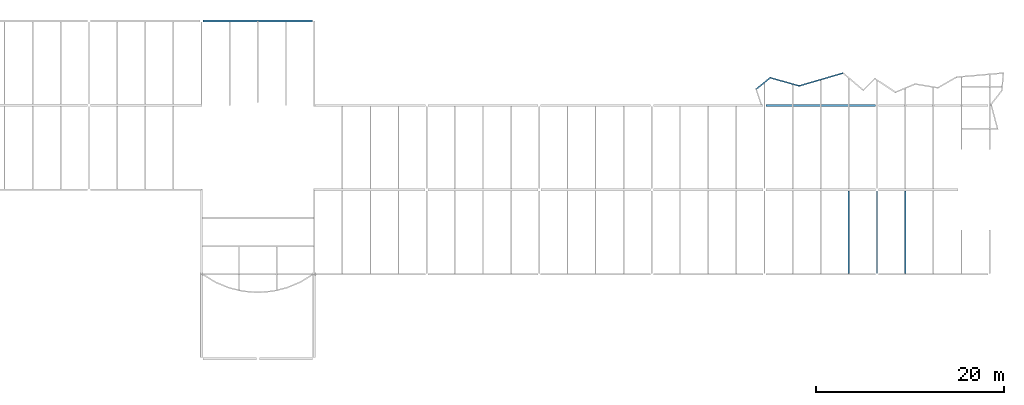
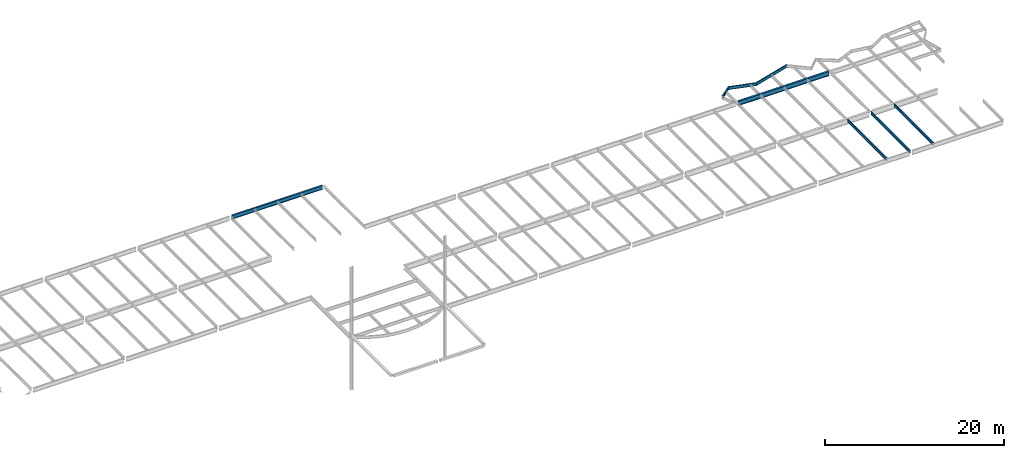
# One storey, part 17 of 21: 8 beams.
"""IFC2X3 building model written with IfcOpenShell, lengths in millimetres."""

from ifc_helpers import new_model, si_unit, origin, place, context, project, spatial, faceted_brep, material, element, save


model = new_model("IFC2X3")

# Units and contexts
context_of_model = context(None, 3, precision=1e-05, world=origin())
ifc_project = project(units=[si_unit("LENGTHUNIT", "METRE", prefix="MILLI")], contexts=[context_of_model])

# Building, storey
building = spatial("IfcBuilding", under=ifc_project, Name="Building", CompositionType="ELEMENT")
storey = spatial("IfcBuildingStorey", under=building, Name="FL6-FRM", CompositionType="ELEMENT")

# Beams
ifc_material_1 = material(Name="A992")
beam_1_placement = place(None, origin())
element("IfcBeam", 1, at=beam_1_placement, inside=storey, material=ifc_material_1, Name="B757", context=context_of_model, shape_type="Brep", body=[
    faceted_brep([(11847.0, 36104.5, 21845.0), (11847.0, 35895.5, 21845.0), (153.0, 35895.5, 21845.0), (153.0, 36104.5, 21845.0), (11847.0, 35895.5, 21858.3), (153.0, 35895.5, 21858.3), (11847.0, 35982.6, 21858.3), (153.0, 35982.6, 21858.3), (11847.0, 35985.8, 21858.7), (153.0, 35985.8, 21858.7), (11847.0, 35988.9, 21860.0), (153.0, 35988.9, 21860.0), (11847.0, 35991.5, 21862.0), (153.0, 35991.5, 21862.0), (11847.0, 35993.5, 21864.7), (153.0, 35993.5, 21864.7), (11847.0, 35994.8, 21867.7), (153.0, 35994.8, 21867.7), (11847.0, 35995.3, 21871.0), (153.0, 35995.3, 21871.0), (11847.0, 35995.3, 22347.0), (153.0, 35995.3, 22347.0), (11847.0, 35994.8, 22350.3), (153.0, 35994.8, 22350.3), (11847.0, 35993.5, 22353.3), (153.0, 35993.5, 22353.3), (11847.0, 35991.5, 22356.0), (153.0, 35991.5, 22356.0), (11847.0, 35988.9, 22358.0), (153.0, 35988.9, 22358.0), (11847.0, 35985.8, 22359.3), (153.0, 35985.8, 22359.3), (11847.0, 35982.6, 22359.7), (153.0, 35982.6, 22359.7), (11847.0, 35895.5, 22359.7), (153.0, 35895.5, 22359.7), (11847.0, 35895.5, 22373.0), (153.0, 35895.5, 22373.0), (11847.0, 36104.5, 22373.0), (153.0, 36104.5, 22373.0), (11847.0, 36104.5, 22359.7), (153.0, 36104.5, 22359.7), (11847.0, 36017.4, 22359.7), (153.0, 36017.4, 22359.7), (11847.0, 36014.2, 22359.3), (153.0, 36014.2, 22359.3), (11847.0, 36011.1, 22358.0), (153.0, 36011.1, 22358.0), (11847.0, 36008.5, 22356.0), (153.0, 36008.5, 22356.0), (11847.0, 36006.5, 22353.3), (153.0, 36006.5, 22353.3), (11847.0, 36005.2, 22350.3), (153.0, 36005.2, 22350.3), (11847.0, 36004.8, 22347.0), (153.0, 36004.8, 22347.0), (11847.0, 36004.8, 21871.0), (153.0, 36004.8, 21871.0), (11847.0, 36005.2, 21867.7), (153.0, 36005.2, 21867.7), (11847.0, 36006.5, 21864.7), (153.0, 36006.5, 21864.7), (11847.0, 36008.5, 21862.0), (153.0, 36008.5, 21862.0), (11847.0, 36011.1, 21860.0), (153.0, 36011.1, 21860.0), (11847.0, 36014.2, 21858.7), (153.0, 36014.2, 21858.7), (11847.0, 36017.4, 21858.3), (153.0, 36017.4, 21858.3), (11847.0, 36104.5, 21858.3), (153.0, 36104.5, 21858.3)], [[[0, 1, 2, 3]], [[1, 4, 5, 2]], [[4, 6, 7, 5]], [[6, 8, 9, 7]], [[8, 10, 11, 9]], [[10, 12, 13, 11]], [[12, 14, 15, 13]], [[14, 16, 17, 15]], [[16, 18, 19, 17]], [[18, 20, 21, 19]], [[20, 22, 23, 21]], [[22, 24, 25, 23]], [[24, 26, 27, 25]], [[26, 28, 29, 27]], [[28, 30, 31, 29]], [[30, 32, 33, 31]], [[32, 34, 35, 33]], [[34, 36, 37, 35]], [[36, 38, 39, 37]], [[38, 40, 41, 39]], [[40, 42, 43, 41]], [[42, 44, 45, 43]], [[44, 46, 47, 45]], [[46, 48, 49, 47]], [[48, 50, 51, 49]], [[50, 52, 53, 51]], [[52, 54, 55, 53]], [[54, 56, 57, 55]], [[56, 58, 59, 57]], [[58, 60, 61, 59]], [[60, 62, 63, 61]], [[62, 64, 65, 63]], [[64, 66, 67, 65]], [[66, 68, 69, 67]], [[68, 70, 71, 69]], [[70, 0, 3, 71]], [[0, 70, 68, 66, 64, 62, 60, 58, 56, 54, 52, 50, 48, 46, 44, 42, 40, 38, 36, 34, 32, 30, 28, 26, 24, 22, 20, 18, 16, 14, 12, 10, 8, 6, 4, 1]], [[3, 2, 5, 7, 9, 11, 13, 15, 17, 19, 21, 23, 25, 27, 29, 31, 33, 35, 37, 39, 41, 43, 45, 47, 49, 51, 53, 55, 57, 59, 61, 63, 65, 67, 69, 71]]]),
])
ifc_material_2 = material(Name="A992")
beam_2_placement = place(None, origin())
element("IfcBeam", 2, at=beam_2_placement, inside=storey, material=ifc_material_2, Name="B892", context=context_of_model, shape_type="Brep", body=[
    faceted_brep([(69070.0, 9089.5, 21970.0), (68930.0, 9089.5, 21970.0), (68930.0, 17867.5, 21970.0), (69070.0, 17867.5, 21970.0), (68930.0, 9089.5, 21981.2), (68930.0, 17867.5, 21981.2), (68986.3, 9089.5, 21981.2), (68986.3, 17867.5, 21981.2), (68988.9, 9089.5, 21981.5), (68988.9, 17867.5, 21981.5), (68991.4, 9089.5, 21982.6), (68991.4, 17867.5, 21982.6), (68993.5, 9089.5, 21984.2), (68993.5, 17867.5, 21984.2), (68995.1, 9089.5, 21986.3), (68995.1, 17867.5, 21986.3), (68996.2, 9089.5, 21988.8), (68996.2, 17867.5, 21988.8), (68996.5, 9089.5, 21991.4), (68996.5, 17867.5, 21991.4), (68996.5, 9089.5, 22351.6), (68996.5, 17867.5, 22351.6), (68996.2, 9089.5, 22354.2), (68996.2, 17867.5, 22354.2), (68995.1, 9089.5, 22356.7), (68995.1, 17867.5, 22356.7), (68993.5, 9089.5, 22358.8), (68993.5, 17867.5, 22358.8), (68991.4, 9089.5, 22360.4), (68991.4, 17867.5, 22360.4), (68988.9, 9089.5, 22361.5), (68988.9, 17867.5, 22361.5), (68986.3, 9089.5, 22361.8), (68986.3, 17867.5, 22361.8), (68930.0, 9089.5, 22361.8), (68930.0, 17867.5, 22361.8), (68930.0, 9089.5, 22373.0), (68930.0, 17867.5, 22373.0), (69070.0, 9089.5, 22373.0), (69070.0, 17867.5, 22373.0), (69070.0, 9089.5, 22361.8), (69070.0, 17867.5, 22361.8), (69013.7, 9089.5, 22361.8), (69013.7, 17867.5, 22361.8), (69011.1, 9089.5, 22361.5), (69011.1, 17867.5, 22361.5), (69008.6, 9089.5, 22360.4), (69008.6, 17867.5, 22360.4), (69006.5, 9089.5, 22358.8), (69006.5, 17867.5, 22358.8), (69004.9, 9089.5, 22356.7), (69004.9, 17867.5, 22356.7), (69003.8, 9089.5, 22354.2), (69003.8, 17867.5, 22354.2), (69003.5, 9089.5, 22351.6), (69003.5, 17867.5, 22351.6), (69003.5, 9089.5, 21991.4), (69003.5, 17867.5, 21991.4), (69003.8, 9089.5, 21988.8), (69003.8, 17867.5, 21988.8), (69004.9, 9089.5, 21986.3), (69004.9, 17867.5, 21986.3), (69006.5, 9089.5, 21984.2), (69006.5, 17867.5, 21984.2), (69008.6, 9089.5, 21982.6), (69008.6, 17867.5, 21982.6), (69011.1, 9089.5, 21981.5), (69011.1, 17867.5, 21981.5), (69013.7, 9089.5, 21981.2), (69013.7, 17867.5, 21981.2), (69070.0, 9089.5, 21981.2), (69070.0, 17867.5, 21981.2)], [[[0, 1, 2, 3]], [[1, 4, 5, 2]], [[4, 6, 7, 5]], [[6, 8, 9, 7]], [[8, 10, 11, 9]], [[10, 12, 13, 11]], [[12, 14, 15, 13]], [[14, 16, 17, 15]], [[16, 18, 19, 17]], [[18, 20, 21, 19]], [[20, 22, 23, 21]], [[22, 24, 25, 23]], [[24, 26, 27, 25]], [[26, 28, 29, 27]], [[28, 30, 31, 29]], [[30, 32, 33, 31]], [[32, 34, 35, 33]], [[34, 36, 37, 35]], [[36, 38, 39, 37]], [[38, 40, 41, 39]], [[40, 42, 43, 41]], [[42, 44, 45, 43]], [[44, 46, 47, 45]], [[46, 48, 49, 47]], [[48, 50, 51, 49]], [[50, 52, 53, 51]], [[52, 54, 55, 53]], [[54, 56, 57, 55]], [[56, 58, 59, 57]], [[58, 60, 61, 59]], [[60, 62, 63, 61]], [[62, 64, 65, 63]], [[64, 66, 67, 65]], [[66, 68, 69, 67]], [[68, 70, 71, 69]], [[70, 0, 3, 71]], [[0, 70, 68, 66, 64, 62, 60, 58, 56, 54, 52, 50, 48, 46, 44, 42, 40, 38, 36, 34, 32, 30, 28, 26, 24, 22, 20, 18, 16, 14, 12, 10, 8, 6, 4, 1]], [[3, 2, 5, 7, 9, 11, 13, 15, 17, 19, 21, 23, 25, 27, 29, 31, 33, 35, 37, 39, 41, 43, 45, 47, 49, 51, 53, 55, 57, 59, 61, 63, 65, 67, 69, 71]]]),
])
ifc_material_3 = material(Name="A992")
beam_3_placement = place(None, origin())
element("IfcBeam", 3, at=beam_3_placement, inside=storey, material=ifc_material_3, Name="Column613", context=context_of_model, shape_type="Brep", body=[
    faceted_brep([(60154.0, 26885.5, 21761.0), (60154.0, 27114.5, 21761.0), (71846.0, 27114.5, 21761.0), (71846.0, 26885.5, 21761.0), (60154.0, 27114.5, 21780.6), (71846.0, 27114.5, 21780.6), (60154.0, 27018.6, 21780.6), (71846.0, 27018.6, 21780.6), (60154.0, 27015.4, 21781.0), (71846.0, 27015.4, 21781.0), (60154.0, 27012.3, 21782.3), (71846.0, 27012.3, 21782.3), (60154.0, 27009.7, 21784.3), (71846.0, 27009.7, 21784.3), (60154.0, 27007.7, 21787.0), (71846.0, 27007.7, 21787.0), (60154.0, 27006.4, 21790.0), (71846.0, 27006.4, 21790.0), (60154.0, 27005.9, 21793.3), (71846.0, 27005.9, 21793.3), (60154.0, 27005.9, 22340.7), (71846.0, 27005.9, 22340.7), (60154.0, 27006.4, 22344.0), (71846.0, 27006.4, 22344.0), (60154.0, 27007.7, 22347.0), (71846.0, 27007.7, 22347.0), (60154.0, 27009.7, 22349.7), (71846.0, 27009.7, 22349.7), (60154.0, 27012.3, 22351.7), (71846.0, 27012.3, 22351.7), (60154.0, 27015.4, 22353.0), (71846.0, 27015.4, 22353.0), (60154.0, 27018.6, 22353.4), (71846.0, 27018.6, 22353.4), (60154.0, 27114.5, 22353.4), (71846.0, 27114.5, 22353.4), (60154.0, 27114.5, 22373.0), (71846.0, 27114.5, 22373.0), (60154.0, 26885.5, 22373.0), (71846.0, 26885.5, 22373.0), (60154.0, 26885.5, 22353.4), (71846.0, 26885.5, 22353.4), (60154.0, 26981.4, 22353.4), (71846.0, 26981.4, 22353.4), (60154.0, 26984.6, 22353.0), (71846.0, 26984.6, 22353.0), (60154.0, 26987.7, 22351.7), (71846.0, 26987.7, 22351.7), (60154.0, 26990.3, 22349.7), (71846.0, 26990.3, 22349.7), (60154.0, 26992.3, 22347.0), (71846.0, 26992.3, 22347.0), (60154.0, 26993.6, 22344.0), (71846.0, 26993.6, 22344.0), (60154.0, 26994.1, 22340.7), (71846.0, 26994.1, 22340.7), (60154.0, 26994.1, 21793.3), (71846.0, 26994.1, 21793.3), (60154.0, 26993.6, 21790.0), (71846.0, 26993.6, 21790.0), (60154.0, 26992.3, 21787.0), (71846.0, 26992.3, 21787.0), (60154.0, 26990.3, 21784.3), (71846.0, 26990.3, 21784.3), (60154.0, 26987.7, 21782.3), (71846.0, 26987.7, 21782.3), (60154.0, 26984.6, 21781.0), (71846.0, 26984.6, 21781.0), (60154.0, 26981.4, 21780.6), (71846.0, 26981.4, 21780.6), (60154.0, 26885.5, 21780.6), (71846.0, 26885.5, 21780.6)], [[[0, 1, 2, 3]], [[1, 4, 5, 2]], [[4, 6, 7, 5]], [[6, 8, 9, 7]], [[8, 10, 11, 9]], [[10, 12, 13, 11]], [[12, 14, 15, 13]], [[14, 16, 17, 15]], [[16, 18, 19, 17]], [[18, 20, 21, 19]], [[20, 22, 23, 21]], [[22, 24, 25, 23]], [[24, 26, 27, 25]], [[26, 28, 29, 27]], [[28, 30, 31, 29]], [[30, 32, 33, 31]], [[32, 34, 35, 33]], [[34, 36, 37, 35]], [[36, 38, 39, 37]], [[38, 40, 41, 39]], [[40, 42, 43, 41]], [[42, 44, 45, 43]], [[44, 46, 47, 45]], [[46, 48, 49, 47]], [[48, 50, 51, 49]], [[50, 52, 53, 51]], [[52, 54, 55, 53]], [[54, 56, 57, 55]], [[56, 58, 59, 57]], [[58, 60, 61, 59]], [[60, 62, 63, 61]], [[62, 64, 65, 63]], [[64, 66, 67, 65]], [[66, 68, 69, 67]], [[68, 70, 71, 69]], [[70, 0, 3, 71]], [[0, 70, 68, 66, 64, 62, 60, 58, 56, 54, 52, 50, 48, 46, 44, 42, 40, 38, 36, 34, 32, 30, 28, 26, 24, 22, 20, 18, 16, 14, 12, 10, 8, 6, 4, 1]], [[3, 2, 5, 7, 9, 11, 13, 15, 17, 19, 21, 23, 25, 27, 29, 31, 33, 35, 37, 39, 41, 43, 45, 47, 49, 51, 53, 55, 57, 59, 61, 63, 65, 67, 69, 71]]]),
])
ifc_material_4 = material(Name="A992")
beam_4_placement = place(None, origin())
element("IfcBeam", 4, at=beam_4_placement, inside=storey, material=ifc_material_4, Name="B898", context=context_of_model, shape_type="Brep", body=[
    faceted_brep([(75070.0, 9089.5, 21970.0), (74930.0, 9089.5, 21970.0), (74930.0, 17867.5, 21970.0), (75070.0, 17867.5, 21970.0), (74930.0, 9089.5, 21981.2), (74930.0, 17867.5, 21981.2), (74986.3, 9089.5, 21981.2), (74986.3, 17867.5, 21981.2), (74988.9, 9089.5, 21981.5), (74988.9, 17867.5, 21981.5), (74991.4, 9089.5, 21982.6), (74991.4, 17867.5, 21982.6), (74993.5, 9089.5, 21984.2), (74993.5, 17867.5, 21984.2), (74995.1, 9089.5, 21986.3), (74995.1, 17867.5, 21986.3), (74996.2, 9089.5, 21988.8), (74996.2, 17867.5, 21988.8), (74996.5, 9089.5, 21991.4), (74996.5, 17867.5, 21991.4), (74996.5, 9089.5, 22351.6), (74996.5, 17867.5, 22351.6), (74996.2, 9089.5, 22354.2), (74996.2, 17867.5, 22354.2), (74995.1, 9089.5, 22356.7), (74995.1, 17867.5, 22356.7), (74993.5, 9089.5, 22358.8), (74993.5, 17867.5, 22358.8), (74991.4, 9089.5, 22360.4), (74991.4, 17867.5, 22360.4), (74988.9, 9089.5, 22361.5), (74988.9, 17867.5, 22361.5), (74986.3, 9089.5, 22361.8), (74986.3, 17867.5, 22361.8), (74930.0, 9089.5, 22361.8), (74930.0, 17867.5, 22361.8), (74930.0, 9089.5, 22373.0), (74930.0, 17867.5, 22373.0), (75070.0, 9089.5, 22373.0), (75070.0, 17867.5, 22373.0), (75070.0, 9089.5, 22361.8), (75070.0, 17867.5, 22361.8), (75013.7, 9089.5, 22361.8), (75013.7, 17867.5, 22361.8), (75011.1, 9089.5, 22361.5), (75011.1, 17867.5, 22361.5), (75008.6, 9089.5, 22360.4), (75008.6, 17867.5, 22360.4), (75006.5, 9089.5, 22358.8), (75006.5, 17867.5, 22358.8), (75004.9, 9089.5, 22356.7), (75004.9, 17867.5, 22356.7), (75003.8, 9089.5, 22354.2), (75003.8, 17867.5, 22354.2), (75003.5, 9089.5, 22351.6), (75003.5, 17867.5, 22351.6), (75003.5, 9089.5, 21991.4), (75003.5, 17867.5, 21991.4), (75003.8, 9089.5, 21988.8), (75003.8, 17867.5, 21988.8), (75004.9, 9089.5, 21986.3), (75004.9, 17867.5, 21986.3), (75006.5, 9089.5, 21984.2), (75006.5, 17867.5, 21984.2), (75008.6, 9089.5, 21982.6), (75008.6, 17867.5, 21982.6), (75011.1, 9089.5, 21981.5), (75011.1, 17867.5, 21981.5), (75013.7, 9089.5, 21981.2), (75013.7, 17867.5, 21981.2), (75070.0, 9089.5, 21981.2), (75070.0, 17867.5, 21981.2)], [[[0, 1, 2, 3]], [[1, 4, 5, 2]], [[4, 6, 7, 5]], [[6, 8, 9, 7]], [[8, 10, 11, 9]], [[10, 12, 13, 11]], [[12, 14, 15, 13]], [[14, 16, 17, 15]], [[16, 18, 19, 17]], [[18, 20, 21, 19]], [[20, 22, 23, 21]], [[22, 24, 25, 23]], [[24, 26, 27, 25]], [[26, 28, 29, 27]], [[28, 30, 31, 29]], [[30, 32, 33, 31]], [[32, 34, 35, 33]], [[34, 36, 37, 35]], [[36, 38, 39, 37]], [[38, 40, 41, 39]], [[40, 42, 43, 41]], [[42, 44, 45, 43]], [[44, 46, 47, 45]], [[46, 48, 49, 47]], [[48, 50, 51, 49]], [[50, 52, 53, 51]], [[52, 54, 55, 53]], [[54, 56, 57, 55]], [[56, 58, 59, 57]], [[58, 60, 61, 59]], [[60, 62, 63, 61]], [[62, 64, 65, 63]], [[64, 66, 67, 65]], [[66, 68, 69, 67]], [[68, 70, 71, 69]], [[70, 0, 3, 71]], [[0, 70, 68, 66, 64, 62, 60, 58, 56, 54, 52, 50, 48, 46, 44, 42, 40, 38, 36, 34, 32, 30, 28, 26, 24, 22, 20, 18, 16, 14, 12, 10, 8, 6, 4, 1]], [[3, 2, 5, 7, 9, 11, 13, 15, 17, 19, 21, 23, 25, 27, 29, 31, 33, 35, 37, 39, 41, 43, 45, 47, 49, 51, 53, 55, 57, 59, 61, 63, 65, 67, 69, 71]]]),
])
ifc_material_5 = material(Name="A992")
beam_5_placement = place(None, origin())
element("IfcBeam", 5, at=beam_5_placement, inside=storey, material=ifc_material_5, Name="B901", context=context_of_model, shape_type="Brep", body=[
    faceted_brep([(72070.0, 9089.5, 21970.0), (71930.0, 9089.5, 21970.0), (71930.0, 17867.5, 21970.0), (72070.0, 17867.5, 21970.0), (71930.0, 9089.5, 21981.2), (71930.0, 17867.5, 21981.2), (71986.3, 9089.5, 21981.2), (71986.3, 17867.5, 21981.2), (71988.9, 9089.5, 21981.5), (71988.9, 17867.5, 21981.5), (71991.4, 9089.5, 21982.6), (71991.4, 17867.5, 21982.6), (71993.5, 9089.5, 21984.2), (71993.5, 17867.5, 21984.2), (71995.1, 9089.5, 21986.3), (71995.1, 17867.5, 21986.3), (71996.2, 9089.5, 21988.8), (71996.2, 17867.5, 21988.8), (71996.5, 9089.5, 21991.4), (71996.5, 17867.5, 21991.4), (71996.5, 9089.5, 22351.6), (71996.5, 17867.5, 22351.6), (71996.2, 9089.5, 22354.2), (71996.2, 17867.5, 22354.2), (71995.1, 9089.5, 22356.7), (71995.1, 17867.5, 22356.7), (71993.5, 9089.5, 22358.8), (71993.5, 17867.5, 22358.8), (71991.4, 9089.5, 22360.4), (71991.4, 17867.5, 22360.4), (71988.9, 9089.5, 22361.5), (71988.9, 17867.5, 22361.5), (71986.3, 9089.5, 22361.8), (71986.3, 17867.5, 22361.8), (71930.0, 9089.5, 22361.8), (71930.0, 17867.5, 22361.8), (71930.0, 9089.5, 22373.0), (71930.0, 17867.5, 22373.0), (72070.0, 9089.5, 22373.0), (72070.0, 17867.5, 22373.0), (72070.0, 9089.5, 22361.8), (72070.0, 17867.5, 22361.8), (72013.7, 9089.5, 22361.8), (72013.7, 17867.5, 22361.8), (72011.1, 9089.5, 22361.5), (72011.1, 17867.5, 22361.5), (72008.6, 9089.5, 22360.4), (72008.6, 17867.5, 22360.4), (72006.5, 9089.5, 22358.8), (72006.5, 17867.5, 22358.8), (72004.9, 9089.5, 22356.7), (72004.9, 17867.5, 22356.7), (72003.8, 9089.5, 22354.2), (72003.8, 17867.5, 22354.2), (72003.5, 9089.5, 22351.6), (72003.5, 17867.5, 22351.6), (72003.5, 9089.5, 21991.4), (72003.5, 17867.5, 21991.4), (72003.8, 9089.5, 21988.8), (72003.8, 17867.5, 21988.8), (72004.9, 9089.5, 21986.3), (72004.9, 17867.5, 21986.3), (72006.5, 9089.5, 21984.2), (72006.5, 17867.5, 21984.2), (72008.6, 9089.5, 21982.6), (72008.6, 17867.5, 21982.6), (72011.1, 9089.5, 21981.5), (72011.1, 17867.5, 21981.5), (72013.7, 9089.5, 21981.2), (72013.7, 17867.5, 21981.2), (72070.0, 9089.5, 21981.2), (72070.0, 17867.5, 21981.2)], [[[0, 1, 2, 3]], [[1, 4, 5, 2]], [[4, 6, 7, 5]], [[6, 8, 9, 7]], [[8, 10, 11, 9]], [[10, 12, 13, 11]], [[12, 14, 15, 13]], [[14, 16, 17, 15]], [[16, 18, 19, 17]], [[18, 20, 21, 19]], [[20, 22, 23, 21]], [[22, 24, 25, 23]], [[24, 26, 27, 25]], [[26, 28, 29, 27]], [[28, 30, 31, 29]], [[30, 32, 33, 31]], [[32, 34, 35, 33]], [[34, 36, 37, 35]], [[36, 38, 39, 37]], [[38, 40, 41, 39]], [[40, 42, 43, 41]], [[42, 44, 45, 43]], [[44, 46, 47, 45]], [[46, 48, 49, 47]], [[48, 50, 51, 49]], [[50, 52, 53, 51]], [[52, 54, 55, 53]], [[54, 56, 57, 55]], [[56, 58, 59, 57]], [[58, 60, 61, 59]], [[60, 62, 63, 61]], [[62, 64, 65, 63]], [[64, 66, 67, 65]], [[66, 68, 69, 67]], [[68, 70, 71, 69]], [[70, 0, 3, 71]], [[0, 70, 68, 66, 64, 62, 60, 58, 56, 54, 52, 50, 48, 46, 44, 42, 40, 38, 36, 34, 32, 30, 28, 26, 24, 22, 20, 18, 16, 14, 12, 10, 8, 6, 4, 1]], [[3, 2, 5, 7, 9, 11, 13, 15, 17, 19, 21, 23, 25, 27, 29, 31, 33, 35, 37, 39, 41, 43, 45, 47, 49, 51, 53, 55, 57, 59, 61, 63, 65, 67, 69, 71]]]),
])
ifc_material_6 = material(Name="A992")
beam_6_placement = place(None, origin())
element("IfcBeam", 6, at=beam_6_placement, inside=storey, material=ifc_material_6, Name="B910", context=context_of_model, shape_type="Brep", body=[
    faceted_brep([(63702.9, 29007.1, 21974.0), (63702.2, 29152.7, 21974.0), (68398.0, 30522.3, 21974.0), (68364.8, 30366.8, 21974.0), (63702.2, 29152.7, 21982.8), (68398.0, 30522.3, 21982.8), (63702.4, 29093.8, 21982.8), (68384.6, 30459.5, 21982.8), (63702.4, 29092.3, 21982.9), (68384.2, 30457.9, 21982.9), (63702.5, 29090.8, 21983.2), (68383.9, 30456.3, 21983.2), (63702.5, 29089.4, 21983.7), (68383.6, 30454.8, 21983.7), (63702.5, 29088.1, 21984.4), (68383.3, 30453.4, 21984.4), (63702.5, 29086.9, 21985.3), (68383.0, 30452.1, 21985.3), (63702.5, 29085.8, 21986.3), (68382.8, 30450.9, 21986.3), (63702.5, 29084.9, 21987.5), (68382.6, 30449.9, 21987.5), (63702.5, 29084.2, 21988.8), (68382.4, 30449.2, 21988.8), (63702.5, 29083.7, 21990.1), (68382.3, 30448.6, 21990.1), (63702.5, 29083.3, 21991.5), (68382.2, 30448.3, 21991.5), (63702.5, 29083.2, 21993.0), (68382.2, 30448.1, 21993.0), (63702.5, 29083.2, 22354.0), (68382.2, 30448.1, 22354.0), (63702.5, 29083.3, 22355.5), (68382.2, 30448.3, 22355.5), (63702.5, 29083.7, 22356.9), (68382.3, 30448.6, 22356.9), (63702.5, 29084.2, 22358.2), (68382.4, 30449.2, 22358.2), (63702.5, 29084.9, 22359.5), (68382.6, 30449.9, 22359.5), (63702.5, 29085.8, 22360.7), (68382.8, 30450.9, 22360.7), (63702.5, 29086.9, 22361.7), (68383.0, 30452.1, 22361.7), (63702.5, 29088.1, 22362.6), (68383.3, 30453.4, 22362.6), (63702.5, 29089.4, 22363.3), (68383.6, 30454.8, 22363.3), (63702.5, 29090.8, 22363.8), (68383.9, 30456.3, 22363.8), (63702.4, 29092.3, 22364.1), (68384.2, 30457.9, 22364.1), (63702.4, 29093.8, 22364.2), (68384.6, 30459.5, 22364.2), (63702.2, 29152.7, 22364.2), (68398.0, 30522.3, 22364.2), (63702.2, 29152.7, 22373.0), (68398.0, 30522.3, 22373.0), (63702.9, 29007.1, 22373.0), (68364.8, 30366.8, 22373.0), (63702.9, 29007.1, 22364.2), (68364.8, 30366.8, 22364.2), (63702.6, 29066.0, 22364.2), (68378.2, 30429.7, 22364.2), (63702.6, 29067.5, 22364.1), (68378.6, 30431.3, 22364.1), (63702.6, 29068.9, 22363.8), (68378.9, 30432.9, 22363.8), (63702.5, 29070.4, 22363.3), (68379.2, 30434.4, 22363.3), (63702.5, 29071.7, 22362.6), (68379.5, 30435.8, 22362.6), (63702.5, 29072.9, 22361.7), (68379.8, 30437.1, 22361.7), (63702.5, 29074.0, 22360.7), (68380.1, 30438.2, 22360.7), (63702.5, 29074.9, 22359.5), (68380.3, 30439.2, 22359.5), (63702.5, 29075.6, 22358.2), (68380.4, 30440.0, 22358.2), (63702.5, 29076.1, 22356.9), (68380.6, 30440.6, 22356.9), (63702.5, 29076.5, 22355.5), (68380.6, 30440.9, 22355.5), (63702.5, 29076.6, 22354.0), (68380.7, 30441.0, 22354.0), (63702.5, 29076.6, 21993.0), (68380.7, 30441.0, 21993.0), (63702.5, 29076.5, 21991.5), (68380.6, 30440.9, 21991.5), (63702.5, 29076.1, 21990.1), (68380.6, 30440.6, 21990.1), (63702.5, 29075.6, 21988.8), (68380.4, 30440.0, 21988.8), (63702.5, 29074.9, 21987.5), (68380.3, 30439.2, 21987.5), (63702.5, 29074.0, 21986.3), (68380.1, 30438.2, 21986.3), (63702.5, 29072.9, 21985.3), (68379.8, 30437.1, 21985.3), (63702.5, 29071.7, 21984.4), (68379.5, 30435.8, 21984.4), (63702.5, 29070.4, 21983.7), (68379.2, 30434.4, 21983.7), (63702.6, 29068.9, 21983.2), (68378.9, 30432.9, 21983.2), (63702.6, 29067.5, 21982.9), (68378.6, 30431.3, 21982.9), (63702.6, 29066.0, 21982.8), (68378.2, 30429.7, 21982.8), (63702.9, 29007.1, 21982.8), (68364.8, 30366.8, 21982.8)], [[[0, 1, 2, 3]], [[1, 4, 5, 2]], [[4, 6, 7, 5]], [[6, 8, 9, 7]], [[8, 10, 11, 9]], [[10, 12, 13, 11]], [[12, 14, 15, 13]], [[14, 16, 17, 15]], [[16, 18, 19, 17]], [[18, 20, 21, 19]], [[20, 22, 23, 21]], [[22, 24, 25, 23]], [[24, 26, 27, 25]], [[26, 28, 29, 27]], [[28, 30, 31, 29]], [[30, 32, 33, 31]], [[32, 34, 35, 33]], [[34, 36, 37, 35]], [[36, 38, 39, 37]], [[38, 40, 41, 39]], [[40, 42, 43, 41]], [[42, 44, 45, 43]], [[44, 46, 47, 45]], [[46, 48, 49, 47]], [[48, 50, 51, 49]], [[50, 52, 53, 51]], [[52, 54, 55, 53]], [[54, 56, 57, 55]], [[56, 58, 59, 57]], [[58, 60, 61, 59]], [[60, 62, 63, 61]], [[62, 64, 65, 63]], [[64, 66, 67, 65]], [[66, 68, 69, 67]], [[68, 70, 71, 69]], [[70, 72, 73, 71]], [[72, 74, 75, 73]], [[74, 76, 77, 75]], [[76, 78, 79, 77]], [[78, 80, 81, 79]], [[80, 82, 83, 81]], [[82, 84, 85, 83]], [[84, 86, 87, 85]], [[86, 88, 89, 87]], [[88, 90, 91, 89]], [[90, 92, 93, 91]], [[92, 94, 95, 93]], [[94, 96, 97, 95]], [[96, 98, 99, 97]], [[98, 100, 101, 99]], [[100, 102, 103, 101]], [[102, 104, 105, 103]], [[104, 106, 107, 105]], [[106, 108, 109, 107]], [[108, 110, 111, 109]], [[110, 0, 3, 111]], [[0, 110, 108, 106, 104, 102, 100, 98, 96, 94, 92, 90, 88, 86, 84, 82, 80, 78, 76, 74, 72, 70, 68, 66, 64, 62, 60, 58, 56, 54, 52, 50, 48, 46, 44, 42, 40, 38, 36, 34, 32, 30, 28, 26, 24, 22, 20, 18, 16, 14, 12, 10, 8, 6, 4, 1]], [[3, 2, 5, 7, 9, 11, 13, 15, 17, 19, 21, 23, 25, 27, 29, 31, 33, 35, 37, 39, 41, 43, 45, 47, 49, 51, 53, 55, 57, 59, 61, 63, 65, 67, 69, 71, 73, 75, 77, 79, 81, 83, 85, 87, 89, 91, 93, 95, 97, 99, 101, 103, 105, 107, 109, 111]]]),
])
ifc_material_7 = material(Name="A992")
beam_7_placement = place(None, origin())
element("IfcBeam", 7, at=beam_7_placement, inside=storey, material=ifc_material_7, Name="B911", context=context_of_model, shape_type="Brep", body=[
    faceted_brep([(60630.3, 29871.2, 21974.0), (60598.3, 30025.7, 21974.0), (63702.2, 29152.7, 21974.0), (63702.9, 29007.1, 21974.0), (60598.3, 30025.7, 21982.8), (63702.2, 29152.7, 21982.8), (60611.3, 29963.2, 21982.8), (63702.4, 29093.8, 21982.8), (60611.6, 29961.6, 21982.9), (63702.4, 29092.3, 21982.9), (60611.9, 29960.1, 21983.2), (63702.5, 29090.8, 21983.2), (60612.2, 29958.6, 21983.7), (63702.5, 29089.4, 21983.7), (60612.5, 29957.2, 21984.4), (63702.5, 29088.1, 21984.4), (60612.8, 29955.9, 21985.3), (63702.5, 29086.9, 21985.3), (60613.0, 29954.7, 21986.3), (63702.5, 29085.8, 21986.3), (60613.2, 29953.8, 21987.5), (63702.5, 29084.9, 21987.5), (60613.4, 29953.0, 21988.8), (63702.5, 29084.2, 21988.8), (60613.5, 29952.4, 21990.1), (63702.5, 29083.7, 21990.1), (60613.6, 29952.1, 21991.5), (63702.5, 29083.3, 21991.5), (60613.6, 29952.0, 21993.0), (63702.5, 29083.2, 21993.0), (60613.6, 29952.0, 22354.0), (63702.5, 29083.2, 22354.0), (60613.6, 29952.1, 22355.5), (63702.5, 29083.3, 22355.5), (60613.5, 29952.4, 22356.9), (63702.5, 29083.7, 22356.9), (60613.4, 29953.0, 22358.2), (63702.5, 29084.2, 22358.2), (60613.2, 29953.8, 22359.5), (63702.5, 29084.9, 22359.5), (60613.0, 29954.7, 22360.7), (63702.5, 29085.8, 22360.7), (60612.8, 29955.9, 22361.7), (63702.5, 29086.9, 22361.7), (60612.5, 29957.2, 22362.6), (63702.5, 29088.1, 22362.6), (60612.2, 29958.6, 22363.3), (63702.5, 29089.4, 22363.3), (60611.9, 29960.1, 22363.8), (63702.5, 29090.8, 22363.8), (60611.6, 29961.6, 22364.1), (63702.4, 29092.3, 22364.1), (60611.3, 29963.2, 22364.2), (63702.4, 29093.8, 22364.2), (60598.3, 30025.7, 22364.2), (63702.2, 29152.7, 22364.2), (60598.3, 30025.7, 22373.0), (63702.2, 29152.7, 22373.0), (60630.3, 29871.2, 22373.0), (63702.9, 29007.1, 22373.0), (60630.3, 29871.2, 22364.2), (63702.9, 29007.1, 22364.2), (60617.4, 29933.7, 22364.2), (63702.6, 29066.0, 22364.2), (60617.1, 29935.3, 22364.1), (63702.6, 29067.5, 22364.1), (60616.7, 29936.8, 22363.8), (63702.6, 29068.9, 22363.8), (60616.4, 29938.3, 22363.3), (63702.5, 29070.4, 22363.3), (60616.1, 29939.7, 22362.6), (63702.5, 29071.7, 22362.6), (60615.9, 29941.0, 22361.7), (63702.5, 29072.9, 22361.7), (60615.6, 29942.2, 22360.7), (63702.5, 29074.0, 22360.7), (60615.4, 29943.1, 22359.5), (63702.5, 29074.9, 22359.5), (60615.3, 29943.9, 22358.2), (63702.5, 29075.6, 22358.2), (60615.2, 29944.4, 22356.9), (63702.5, 29076.1, 22356.9), (60615.1, 29944.8, 22355.5), (63702.5, 29076.5, 22355.5), (60615.1, 29944.9, 22354.0), (63702.5, 29076.6, 22354.0), (60615.1, 29944.9, 21993.0), (63702.5, 29076.6, 21993.0), (60615.1, 29944.8, 21991.5), (63702.5, 29076.5, 21991.5), (60615.2, 29944.4, 21990.1), (63702.5, 29076.1, 21990.1), (60615.3, 29943.9, 21988.8), (63702.5, 29075.6, 21988.8), (60615.4, 29943.1, 21987.5), (63702.5, 29074.9, 21987.5), (60615.6, 29942.2, 21986.3), (63702.5, 29074.0, 21986.3), (60615.9, 29941.0, 21985.3), (63702.5, 29072.9, 21985.3), (60616.1, 29939.7, 21984.4), (63702.5, 29071.7, 21984.4), (60616.4, 29938.3, 21983.7), (63702.5, 29070.4, 21983.7), (60616.7, 29936.8, 21983.2), (63702.6, 29068.9, 21983.2), (60617.1, 29935.3, 21982.9), (63702.6, 29067.5, 21982.9), (60617.4, 29933.7, 21982.8), (63702.6, 29066.0, 21982.8), (60630.3, 29871.2, 21982.8), (63702.9, 29007.1, 21982.8)], [[[0, 1, 2, 3]], [[1, 4, 5, 2]], [[4, 6, 7, 5]], [[6, 8, 9, 7]], [[8, 10, 11, 9]], [[10, 12, 13, 11]], [[12, 14, 15, 13]], [[14, 16, 17, 15]], [[16, 18, 19, 17]], [[18, 20, 21, 19]], [[20, 22, 23, 21]], [[22, 24, 25, 23]], [[24, 26, 27, 25]], [[26, 28, 29, 27]], [[28, 30, 31, 29]], [[30, 32, 33, 31]], [[32, 34, 35, 33]], [[34, 36, 37, 35]], [[36, 38, 39, 37]], [[38, 40, 41, 39]], [[40, 42, 43, 41]], [[42, 44, 45, 43]], [[44, 46, 47, 45]], [[46, 48, 49, 47]], [[48, 50, 51, 49]], [[50, 52, 53, 51]], [[52, 54, 55, 53]], [[54, 56, 57, 55]], [[56, 58, 59, 57]], [[58, 60, 61, 59]], [[60, 62, 63, 61]], [[62, 64, 65, 63]], [[64, 66, 67, 65]], [[66, 68, 69, 67]], [[68, 70, 71, 69]], [[70, 72, 73, 71]], [[72, 74, 75, 73]], [[74, 76, 77, 75]], [[76, 78, 79, 77]], [[78, 80, 81, 79]], [[80, 82, 83, 81]], [[82, 84, 85, 83]], [[84, 86, 87, 85]], [[86, 88, 89, 87]], [[88, 90, 91, 89]], [[90, 92, 93, 91]], [[92, 94, 95, 93]], [[94, 96, 97, 95]], [[96, 98, 99, 97]], [[98, 100, 101, 99]], [[100, 102, 103, 101]], [[102, 104, 105, 103]], [[104, 106, 107, 105]], [[106, 108, 109, 107]], [[108, 110, 111, 109]], [[110, 0, 3, 111]], [[0, 110, 108, 106, 104, 102, 100, 98, 96, 94, 92, 90, 88, 86, 84, 82, 80, 78, 76, 74, 72, 70, 68, 66, 64, 62, 60, 58, 56, 54, 52, 50, 48, 46, 44, 42, 40, 38, 36, 34, 32, 30, 28, 26, 24, 22, 20, 18, 16, 14, 12, 10, 8, 6, 4, 1]], [[3, 2, 5, 7, 9, 11, 13, 15, 17, 19, 21, 23, 25, 27, 29, 31, 33, 35, 37, 39, 41, 43, 45, 47, 49, 51, 53, 55, 57, 59, 61, 63, 65, 67, 69, 71, 73, 75, 77, 79, 81, 83, 85, 87, 89, 91, 93, 95, 97, 99, 101, 103, 105, 107, 109, 111]]]),
])
ifc_material_8 = material(Name="A992")
beam_8_placement = place(None, origin())
element("IfcBeam", 8, at=beam_8_placement, inside=storey, material=ifc_material_8, Name="B912", context=context_of_model, shape_type="Brep", body=[
    faceted_brep([(59198.7, 28706.5, 21974.0), (59035.3, 28754.0, 21974.0), (60598.3, 30025.7, 21974.0), (60630.3, 29871.2, 21974.0), (59035.3, 28754.0, 21982.8), (60598.3, 30025.7, 21982.8), (59101.3, 28734.8, 21982.8), (60611.3, 29963.2, 21982.8), (59103.2, 28734.3, 21982.9), (60611.6, 29961.5, 21982.9), (59105.0, 28733.7, 21983.3), (60612.0, 29959.8, 21983.3), (59106.7, 28733.2, 21983.9), (60612.3, 29958.1, 21983.9), (59108.3, 28732.8, 21984.7), (60612.6, 29956.6, 21984.7), (59109.7, 28732.3, 21985.8), (60612.9, 29955.3, 21985.8), (59110.9, 28732.0, 21987.0), (60613.2, 29954.1, 21987.0), (59111.9, 28731.7, 21988.3), (60613.3, 29953.2, 21988.4), (59112.6, 28731.5, 21989.8), (60613.5, 29952.5, 21989.8), (59113.1, 28731.4, 21991.4), (60613.6, 29952.1, 21991.4), (59113.2, 28731.3, 21993.0), (60613.6, 29952.0, 21993.0), (59113.2, 28731.3, 22354.0), (60613.6, 29952.0, 22354.0), (59113.1, 28731.4, 22355.6), (60613.6, 29952.1, 22355.6), (59112.6, 28731.5, 22357.2), (60613.5, 29952.5, 22357.2), (59111.9, 28731.7, 22358.7), (60613.3, 29953.2, 22358.6), (59110.9, 28732.0, 22360.0), (60613.2, 29954.1, 22360.0), (59109.7, 28732.3, 22361.2), (60612.9, 29955.3, 22361.2), (59108.3, 28732.8, 22362.3), (60612.6, 29956.6, 22362.3), (59106.7, 28733.2, 22363.1), (60612.3, 29958.1, 22363.1), (59105.0, 28733.7, 22363.7), (60612.0, 29959.8, 22363.7), (59103.2, 28734.3, 22364.1), (60611.6, 29961.5, 22364.1), (59101.3, 28734.8, 22364.2), (60611.3, 29963.2, 22364.2), (59035.3, 28754.0, 22364.2), (60598.3, 30025.7, 22364.2), (59035.3, 28754.0, 22373.0), (60598.3, 30025.7, 22373.0), (59198.7, 28706.5, 22373.0), (60630.3, 29871.2, 22373.0), (59198.7, 28706.5, 22364.2), (60630.3, 29871.2, 22364.2), (59132.6, 28725.7, 22364.2), (60617.4, 29933.7, 22364.2), (59130.8, 28726.2, 22364.1), (60617.0, 29935.4, 22364.1), (59128.9, 28726.8, 22363.7), (60616.7, 29937.1, 22363.7), (59127.2, 28727.3, 22363.1), (60616.3, 29938.8, 22363.1), (59125.6, 28727.7, 22362.3), (60616.0, 29940.3, 22362.3), (59124.2, 28728.1, 22361.2), (60615.7, 29941.6, 22361.2), (59123.0, 28728.5, 22360.0), (60615.5, 29942.8, 22360.0), (59122.0, 28728.8, 22358.7), (60615.3, 29943.7, 22358.6), (59121.3, 28729.0, 22357.2), (60615.2, 29944.4, 22357.2), (59120.9, 28729.1, 22355.6), (60615.1, 29944.8, 22355.6), (59120.7, 28729.2, 22354.0), (60615.1, 29944.9, 22354.0), (59120.7, 28729.2, 21993.0), (60615.1, 29944.9, 21993.0), (59120.9, 28729.1, 21991.4), (60615.1, 29944.8, 21991.4), (59121.3, 28729.0, 21989.8), (60615.2, 29944.4, 21989.8), (59122.0, 28728.8, 21988.3), (60615.3, 29943.7, 21988.4), (59123.0, 28728.5, 21987.0), (60615.5, 29942.8, 21987.0), (59124.2, 28728.1, 21985.8), (60615.7, 29941.6, 21985.8), (59125.6, 28727.7, 21984.7), (60616.0, 29940.3, 21984.7), (59127.2, 28727.3, 21983.9), (60616.3, 29938.8, 21983.9), (59128.9, 28726.8, 21983.3), (60616.7, 29937.1, 21983.3), (59130.8, 28726.2, 21982.9), (60617.0, 29935.4, 21982.9), (59132.6, 28725.7, 21982.8), (60617.4, 29933.7, 21982.8), (59198.7, 28706.5, 21982.8), (60630.3, 29871.2, 21982.8)], [[[0, 1, 2, 3]], [[1, 4, 5, 2]], [[4, 6, 7, 5]], [[6, 8, 9, 7]], [[8, 10, 11, 9]], [[10, 12, 13, 11]], [[12, 14, 15, 13]], [[14, 16, 17, 15]], [[16, 18, 19, 17]], [[18, 20, 21, 19]], [[20, 22, 23, 21]], [[22, 24, 25, 23]], [[24, 26, 27, 25]], [[26, 28, 29, 27]], [[28, 30, 31, 29]], [[30, 32, 33, 31]], [[32, 34, 35, 33]], [[34, 36, 37, 35]], [[36, 38, 39, 37]], [[38, 40, 41, 39]], [[40, 42, 43, 41]], [[42, 44, 45, 43]], [[44, 46, 47, 45]], [[46, 48, 49, 47]], [[48, 50, 51, 49]], [[50, 52, 53, 51]], [[52, 54, 55, 53]], [[54, 56, 57, 55]], [[56, 58, 59, 57]], [[58, 60, 61, 59]], [[60, 62, 63, 61]], [[62, 64, 65, 63]], [[64, 66, 67, 65]], [[66, 68, 69, 67]], [[68, 70, 71, 69]], [[70, 72, 73, 71]], [[72, 74, 75, 73]], [[74, 76, 77, 75]], [[76, 78, 79, 77]], [[78, 80, 81, 79]], [[80, 82, 83, 81]], [[82, 84, 85, 83]], [[84, 86, 87, 85]], [[86, 88, 89, 87]], [[88, 90, 91, 89]], [[90, 92, 93, 91]], [[92, 94, 95, 93]], [[94, 96, 97, 95]], [[96, 98, 99, 97]], [[98, 100, 101, 99]], [[100, 102, 103, 101]], [[102, 0, 3, 103]], [[0, 102, 100, 98, 96, 94, 92, 90, 88, 86, 84, 82, 80, 78, 76, 74, 72, 70, 68, 66, 64, 62, 60, 58, 56, 54, 52, 50, 48, 46, 44, 42, 40, 38, 36, 34, 32, 30, 28, 26, 24, 22, 20, 18, 16, 14, 12, 10, 8, 6, 4, 1]], [[3, 2, 5, 7, 9, 11, 13, 15, 17, 19, 21, 23, 25, 27, 29, 31, 33, 35, 37, 39, 41, 43, 45, 47, 49, 51, 53, 55, 57, 59, 61, 63, 65, 67, 69, 71, 73, 75, 77, 79, 81, 83, 85, 87, 89, 91, 93, 95, 97, 99, 101, 103]]]),
])

save(model, "model.ifc")
